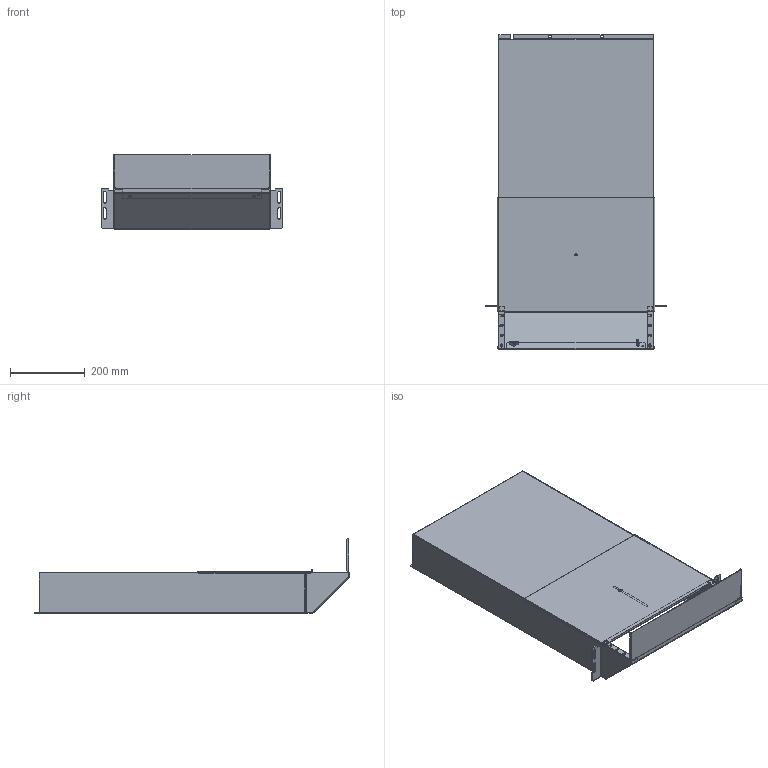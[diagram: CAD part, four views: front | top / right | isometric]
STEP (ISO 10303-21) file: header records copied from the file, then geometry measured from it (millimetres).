
FILE_DESCRIPTION((''),'2;1');
FILE_NAME('Y:\Inventor\I014XXX\I014299\I014299.stp','2011-10-28T11:07:34',('MalloryZ'),(''),'Autodesk Inventor 2012','Autodesk Inventor 2012','');
FILE_SCHEMA(('AUTOMOTIVE_DESIGN { 1 0 10303 214 1 1 1 1 }'));
Length unit declared in the file: inch
Products named in the file (12): I014299; I014301; FH0325; I005365; FH0328; I014300; 10-32STOPNUT; 10ZNWSHR; I007935; 10-32WING
Assembly tree (13 placements, depth 3):
  I014299
    I014301
      I014301
      FH0325  x2
    I005365
      I005365
      FH0328
    I014300
    10-32STOPNUT
    10ZNWSHR
    I007935
    10-32WING  x2
Bounding box: 482.55 x 839 x 199.34 mm (x, y, z)
Volume: 955024.3 mm3; surface area: 1608745.3 mm2
Topology: 11 solids, 11 shells, 767 faces, 2112 edges, 1374 vertices
Faces by surface type: plane 420, cylinder 175, bspline 156, sphere 6, cone 6, torus 4
Full cylindrical faces by diameter (mm): 4.763 x1, 4.826 x4, 4.877 x3, 5.537 x1, 6.502 x3, 7.938 x1, 12.7 x1
Entity records: 24022 total; most frequent: CARTESIAN_POINT 6668, ORIENTED_EDGE 3810, DIRECTION 2990, EDGE_CURVE 1905, VECTOR 1266, LINE 1266, VERTEX_POINT 1247, AXIS2_PLACEMENT_3D 862
